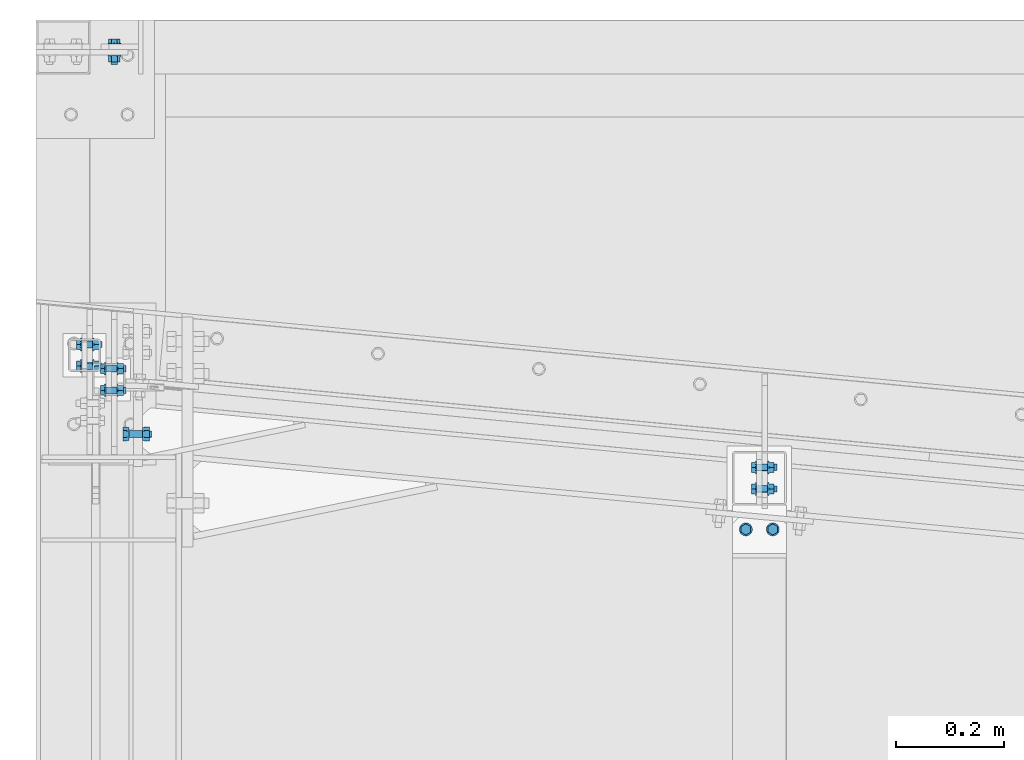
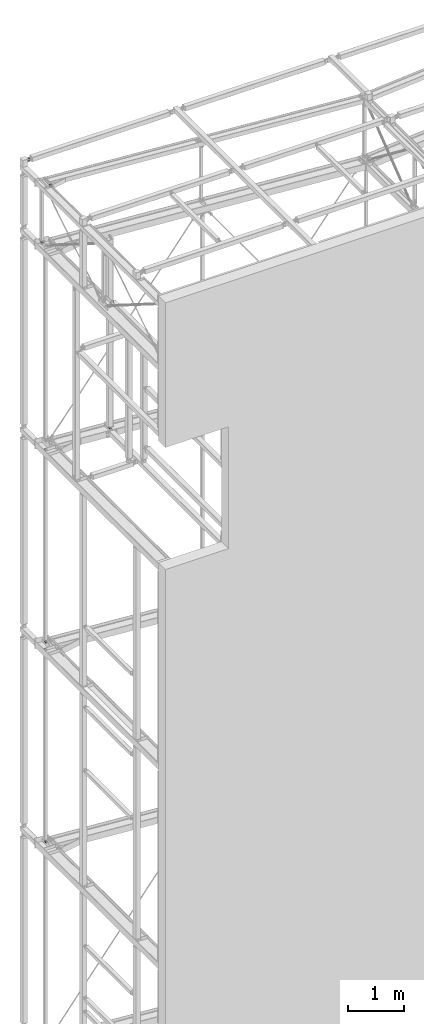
# One storey, part 251 of 271: 10 mechanical fasteners, 7 elements without a shape of their own.
"""IFC2X3 building model written with IfcOpenShell, lengths in millimetres."""

from ifc_helpers import new_model, si_unit, frame, origin_with_axes, origin_2d_with_axis, place, context, subcontext, project, spatial, polyline, circle, outline, extrude, source, transform, mapped, material, type_object, element, aggregate, save


model = new_model("IFC2X3")

# Units and contexts
model_context = context("Model", 3, precision=1e-05, world=origin_with_axes())
body_context = subcontext(model_context, "Body", "Model", "MODEL_VIEW")
ifc_project = project(units=[si_unit("LENGTHUNIT", "METRE", prefix="MILLI"), si_unit("AREAUNIT", "SQUARE_METRE"), si_unit("VOLUMEUNIT", "CUBIC_METRE"), si_unit("MASSUNIT", "GRAM", prefix="KILO"), si_unit("TIMEUNIT", "SECOND"), si_unit("PLANEANGLEUNIT", "RADIAN"), si_unit("SOLIDANGLEUNIT", "STERADIAN"), si_unit("THERMODYNAMICTEMPERATUREUNIT", "DEGREE_CELSIUS"), si_unit("LUMINOUSINTENSITYUNIT", "LUMEN")], contexts=[model_context])

# Site, building, storey
site_placement = place(None, origin_with_axes())
site = spatial("IfcSite", under=ifc_project, at=site_placement, Name="Undefined", CompositionType="ELEMENT")
building_placement = place(site_placement, origin_with_axes())
building = spatial("IfcBuilding", under=site, at=building_placement, Name="Undefined", CompositionType="ELEMENT")
storey_placement = place(building_placement, origin_with_axes())
storey = spatial("IfcBuildingStorey", under=building, at=storey_placement, Name="Undefined", CompositionType="ELEMENT", Elevation=0.0)

# Assembly, mechanical fastener
assembly_1_placement = place(storey_placement, origin_with_axes())
assembly_1 = element("IfcElementAssembly", 1, at=assembly_1_placement, inside=storey, AssemblyPlace="NOTDEFINED", PredefinedType="RIGID_FRAME")
ifc_material = material(Name="Undefined")
mechanical_fastener_type = type_object("IfcMechanicalFastenerType", Name="Bolt assembly")
shared_shape_1 = source(origin_with_axes(), body_context, "Body", "SweptSolid", [
    extrude(circle(Radius=6.5, at=origin_2d_with_axis()), frame((0.0, -5.1, 0.0), z_axis=(0.0, 1.0, 0.0), x_axis=(1.0, 0.0, 0.0)), (0.0, 0.0, 1.0), 10.1),
    extrude(circle(Radius=6.5, at=origin_2d_with_axis()), frame((0.0, -14.9000000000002, 0.0), z_axis=(0.0, 1.0, 0.0), x_axis=(1.0, 0.0, 0.0)), (0.0, 0.0, 1.0), 10.0),
    extrude(outline(polyline([(10.39230484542, 0.0), (5.19615242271, 9.00000000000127), (-5.19615242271, 9.00000000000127), (-10.39230484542, 0.0), (-5.19615242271, -9.00000000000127), (5.19615242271, -9.00000000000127), (10.39230484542, 0.0)])), frame((0.0, -25.0000000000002, 0.0), z_axis=(0.0, 1.0, 0.0), x_axis=(1.0, 0.0, 0.0)), (0.0, 0.0, 1.0), 7.5),
    extrude(circle(Radius=6.0, at=origin_2d_with_axis()), frame((0.0, -17.5000000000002, 0.0), z_axis=(0.0, 1.0, 0.0), x_axis=(1.0, 0.0, 0.0)), (0.0, 0.0, 1.0), 40.0),
    extrude(circle(Radius=12.0, at=origin_2d_with_axis()), frame((0.0, -17.5000000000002, 0.0), z_axis=(0.0, 1.0, 0.0), x_axis=(1.0, 0.0, 0.0)), (0.0, 0.0, 1.0), 2.5),
    extrude(circle(Radius=12.0, at=origin_2d_with_axis()), frame((0.0, 5.00000000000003, 0.0), z_axis=(0.0, 1.0, 0.0), x_axis=(1.0, 0.0, 0.0)), (0.0, 0.0, 1.0), 2.5),
    extrude(outline(polyline([(10.96965511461, 0.0), (5.484827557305, 9.50000000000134), (-5.484827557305, 9.50000000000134), (-10.96965511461, 0.0), (-5.484827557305, -9.50000000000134), (5.484827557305, -9.50000000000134), (10.96965511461, 0.0)])), frame((0.0, 7.50000000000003, 0.0), z_axis=(0.0, 1.0, 0.0), x_axis=(1.0, 0.0, 0.0)), (0.0, 0.0, 1.0), 10.0),
])
mechanical_fastener_1_placement = place(assembly_1_placement, frame((1330.37568709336, 4014.0521198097, 17184.3499999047), z_axis=(1.0, 0.0, 0.0), x_axis=(0.0, -1.0, 0.0)))
mechanical_fastener_1 = element("IfcMechanicalFastener", 2, at=mechanical_fastener_1_placement, type_object=mechanical_fastener_type, material=ifc_material, Name="Bolt assembly", NominalDiameter=12.0, NominalLength=40.0, context=body_context, shape_type="MappedRepresentation", body=[
    mapped(shared_shape_1, transform((0.0, 0.0, -25.0))),
    mapped(shared_shape_1, transform((0.0, 0.0, 25.0))),
])
aggregate(assembly_1, [mechanical_fastener_1])

# Assembly, mechanical fasteners
assembly_2_placement = place(storey_placement, origin_with_axes())
assembly_2 = element("IfcElementAssembly", 3, at=assembly_2_placement, inside=storey, AssemblyPlace="NOTDEFINED", PredefinedType="RIGID_FRAME")
mechanical_fastener_2_placement = place(assembly_2_placement, frame((1340.37568709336, 4109.0521198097, 18565.749999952), z_axis=(0.0, -1.0, 0.0), x_axis=(0.0, 0.0, -1.0)))
mechanical_fastener_2 = element("IfcMechanicalFastener", 4, at=mechanical_fastener_2_placement, type_object=mechanical_fastener_type, material=ifc_material, Name="Bolt assembly", NominalDiameter=12.0, NominalLength=40.0, context=body_context, shape_type="MappedRepresentation", body=[
    mapped(shared_shape_1, transform((0.0, 0.0, -20.0))),
    mapped(shared_shape_1, transform((0.0, 0.0, 20.0))),
])
mechanical_fastener_3_placement = place(assembly_2_placement, frame((1340.37568709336, 4109.0521198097, 14402.949999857), z_axis=(0.0, 1.0, 0.0), x_axis=(0.0, 0.0, 1.0)))
mechanical_fastener_3 = element("IfcMechanicalFastener", 5, at=mechanical_fastener_3_placement, type_object=mechanical_fastener_type, material=ifc_material, Name="Bolt assembly", NominalDiameter=12.0, NominalLength=40.0, context=body_context, shape_type="MappedRepresentation", body=[
    mapped(shared_shape_1, transform((0.0, 0.0, -20.0))),
    mapped(shared_shape_1, transform((0.0, 0.0, 20.0))),
])
aggregate(assembly_2, [mechanical_fastener_2, mechanical_fastener_3])

# Assembly, mechanical fastener
assembly_3_placement = place(storey_placement, origin_with_axes())
assembly_3 = element("IfcElementAssembly", 6, at=assembly_3_placement, inside=storey, AssemblyPlace="NOTDEFINED", PredefinedType="RIGID_FRAME")
mechanical_fastener_4_placement = place(assembly_3_placement, frame((87.9999996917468, 4337.19355050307, 18722.649999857), z_axis=(0.0, 1.0, 0.0), x_axis=(0.0, 0.0, 1.0)))
mechanical_fastener_4 = element("IfcMechanicalFastener", 7, at=mechanical_fastener_4_placement, type_object=mechanical_fastener_type, material=ifc_material, Name="Bolt assembly", NominalDiameter=12.0, NominalLength=40.0, context=body_context, shape_type="MappedRepresentation", body=[
    mapped(shared_shape_1, transform((0.0, 0.0, -20.0))),
    mapped(shared_shape_1, transform((0.0, 0.0, 20.0))),
])
aggregate(assembly_3, [mechanical_fastener_4])

# Assembly, mechanical fasteners
assembly_4_placement = place(storey_placement, origin_with_axes())
assembly_4 = element("IfcElementAssembly", 8, at=assembly_4_placement, inside=storey, AssemblyPlace="NOTDEFINED", PredefinedType="RIGID_FRAME")
mechanical_fastener_5_placement = place(assembly_4_placement, frame((132.999999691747, 4292.19355050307, 14246.049999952), z_axis=(0.0, -1.0, 0.0), x_axis=(0.0, 0.0, -1.0)))
mechanical_fastener_5 = element("IfcMechanicalFastener", 9, at=mechanical_fastener_5_placement, type_object=mechanical_fastener_type, material=ifc_material, Name="Bolt assembly", NominalDiameter=12.0, NominalLength=40.0, context=body_context, shape_type="MappedRepresentation", body=[
    mapped(shared_shape_1, transform((0.0, 0.0, -20.0))),
    mapped(shared_shape_1, transform((0.0, 0.0, 20.0))),
])
mechanical_fastener_6_placement = place(assembly_4_placement, frame((132.999999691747, 4292.19355050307, 10082.649999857), z_axis=(0.0, 1.0, 0.0), x_axis=(0.0, 0.0, 1.0)))
mechanical_fastener_6 = element("IfcMechanicalFastener", 10, at=mechanical_fastener_6_placement, type_object=mechanical_fastener_type, material=ifc_material, Name="Bolt assembly", NominalDiameter=12.0, NominalLength=40.0, context=body_context, shape_type="MappedRepresentation", body=[
    mapped(shared_shape_1, transform((0.0, 0.0, -20.0))),
    mapped(shared_shape_1, transform((0.0, 0.0, 20.0))),
])
aggregate(assembly_4, [mechanical_fastener_5, mechanical_fastener_6])

assembly_5_placement = place(storey_placement, origin_with_axes())
assembly_5 = element("IfcElementAssembly", 11, at=assembly_5_placement, inside=storey, AssemblyPlace="NOTDEFINED", PredefinedType="RIGID_FRAME")
mechanical_fastener_7_placement = place(assembly_5_placement, frame((132.999999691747, 4292.19355050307, 9926.04999995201), z_axis=(0.0, -1.0, 0.0), x_axis=(0.0, 0.0, -1.0)))
mechanical_fastener_7 = element("IfcMechanicalFastener", 12, at=mechanical_fastener_7_placement, type_object=mechanical_fastener_type, material=ifc_material, Name="Bolt assembly", NominalDiameter=12.0, NominalLength=40.0, context=body_context, shape_type="MappedRepresentation", body=[
    mapped(shared_shape_1, transform((0.0, 0.0, -20.0))),
    mapped(shared_shape_1, transform((0.0, 0.0, 20.0))),
])
mechanical_fastener_8_placement = place(assembly_5_placement, frame((132.999999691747, 4292.19355050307, 5762.64999985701), z_axis=(0.0, 1.0, 0.0), x_axis=(0.0, 0.0, 1.0)))
mechanical_fastener_8 = element("IfcMechanicalFastener", 13, at=mechanical_fastener_8_placement, type_object=mechanical_fastener_type, material=ifc_material, Name="Bolt assembly", NominalDiameter=12.0, NominalLength=40.0, context=body_context, shape_type="MappedRepresentation", body=[
    mapped(shared_shape_1, transform((0.0, 0.0, -20.0))),
    mapped(shared_shape_1, transform((0.0, 0.0, 20.0))),
])
aggregate(assembly_5, [mechanical_fastener_7, mechanical_fastener_8])

# Assembly, mechanical fastener
assembly_6_placement = place(storey_placement, origin_with_axes())
assembly_6 = element("IfcElementAssembly", 14, at=assembly_6_placement, inside=storey, AssemblyPlace="NOTDEFINED", PredefinedType="RIGID_FRAME")
mechanical_fastener_9_placement = place(assembly_6_placement, frame((133.375687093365, 4899.32498425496, 20154.3499999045), z_axis=(0.0, 0.0, -1.0), x_axis=(1.0, 0.0, 0.0)))
mechanical_fastener_9 = element("IfcMechanicalFastener", 15, at=mechanical_fastener_9_placement, type_object=mechanical_fastener_type, material=ifc_material, Name="Bolt assembly", NominalDiameter=12.0, NominalLength=40.0, context=body_context, shape_type="MappedRepresentation", body=[
    mapped(shared_shape_1, transform((0.0, 0.0, -25.0))),
    mapped(shared_shape_1, transform((0.0, 0.0, 25.0))),
])
aggregate(assembly_6, [mechanical_fastener_9])

assembly_7_placement = place(storey_placement, origin_with_axes())
assembly_7 = element("IfcElementAssembly", 16, at=assembly_7_placement, inside=storey, AssemblyPlace="NOTDEFINED", PredefinedType="RIGID_FRAME")
shared_shape_2 = source(origin_with_axes(), body_context, "Body", "SweptSolid", [
    extrude(circle(Radius=6.5, at=origin_2d_with_axis()), frame((0.0, -15.9000000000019, 0.0), z_axis=(0.0, 1.0, 0.0), x_axis=(1.0, 0.0, 0.0)), (0.0, 0.0, 1.0), 8.0),
    extrude(circle(Radius=6.5, at=origin_2d_with_axis()), frame((0.0, -7.10000000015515, 0.0), z_axis=(0.0, 1.0, 0.0), x_axis=(1.0, 0.0, 0.0)), (0.0, 0.0, 1.0), 16.1),
    extrude(outline(polyline([(12.70170592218, 0.0), (6.35085296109, 11.0000000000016), (-6.35085296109, 11.0000000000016), (-12.70170592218, 0.0), (-6.35085296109, -11.0000000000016), (6.35085296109, -11.0000000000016), (12.70170592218, 0.0)])), frame((0.0, -27.0, 0.0), z_axis=(0.0, 1.0, 0.0), x_axis=(1.0, 0.0, 0.0)), (0.0, 0.0, 1.0), 8.0),
    extrude(circle(Radius=6.0, at=origin_2d_with_axis()), frame((0.0, -19.0000000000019, 0.0), z_axis=(0.0, 1.0, 0.0), x_axis=(1.0, 0.0, 0.0)), (0.0, 0.0, 1.0), 45.0),
    extrude(circle(Radius=12.0, at=origin_2d_with_axis()), frame((0.0, -19.0000000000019, 0.0), z_axis=(0.0, 1.0, 0.0), x_axis=(1.0, 0.0, 0.0)), (0.0, 0.0, 1.0), 3.0),
    extrude(circle(Radius=12.0, at=origin_2d_with_axis()), frame((0.0, 9.0, 0.0), z_axis=(0.0, 1.0, 0.0), x_axis=(1.0, 0.0, 0.0)), (0.0, 0.0, 1.0), 3.0),
    extrude(outline(polyline([(12.70170592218, 0.0), (6.35085296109, 11.0000000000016), (-6.35085296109, 11.0000000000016), (-12.70170592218, 0.0), (-6.35085296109, -11.0000000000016), (6.35085296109, -11.0000000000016), (12.70170592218, 0.0)])), frame((0.0, 11.9999999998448, 0.0), z_axis=(0.0, 1.0, 0.0), x_axis=(1.0, 0.0, 0.0)), (0.0, 0.0, 1.0), 10.0),
])
mechanical_fastener_10_placement = place(assembly_7_placement, frame((176.375687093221, 4190.93190513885, 20004.3499999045), z_axis=(0.0, 0.0, -1.0), x_axis=(0.0, 1.0, 0.0)))
mechanical_fastener_10 = element("IfcMechanicalFastener", 17, at=mechanical_fastener_10_placement, type_object=mechanical_fastener_type, material=ifc_material, Name="Bolt assembly", NominalDiameter=12.0, NominalLength=45.0, context=body_context, shape_type="MappedRepresentation", body=[
    mapped(shared_shape_2, transform((0.0, 0.0, -25.0))),
    mapped(shared_shape_2, transform((0.0, 0.0, 25.0))),
])
aggregate(assembly_7, [mechanical_fastener_10])

save(model, "model.ifc")
